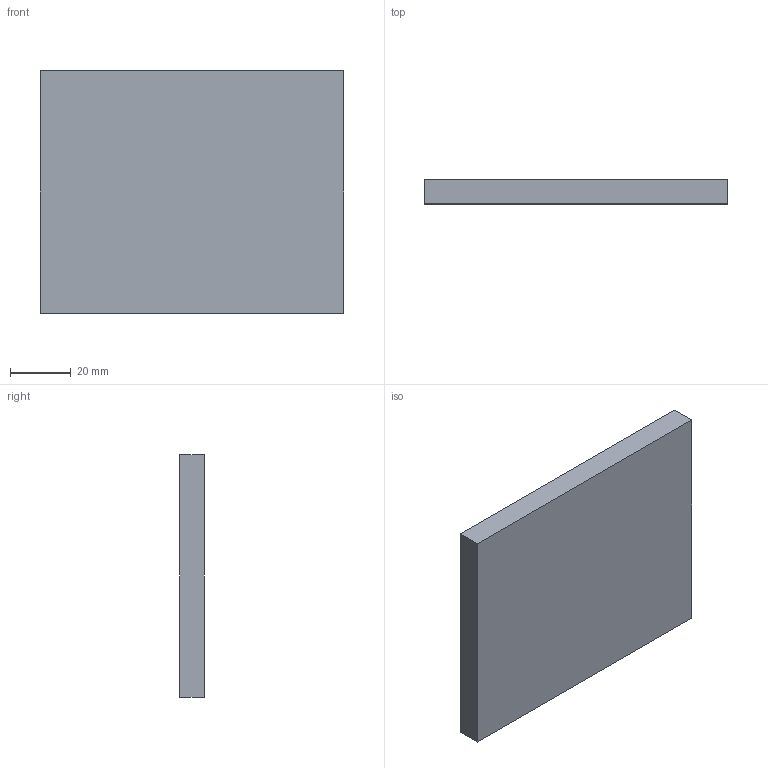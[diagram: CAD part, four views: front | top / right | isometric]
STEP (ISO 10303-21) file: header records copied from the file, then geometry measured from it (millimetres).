
FILE_DESCRIPTION(('Open CASCADE Model'),'2;1');
FILE_NAME('Open CASCADE Shape Model','2026-03-30T20:16:05',('Author'),( 'Open CASCADE'),'Open CASCADE STEP processor 7.8','Open CASCADE 7.8' ,'Unknown');
FILE_SCHEMA(('AUTOMOTIVE_DESIGN { 1 0 10303 214 1 1 1 1 }'));
Length unit declared in the file: millimetre
Products named in the file (1): Open CASCADE STEP translator 7.8 16
Bounding box: 100 x 8 x 80 mm (x, y, z)
Volume: 64000 mm3; surface area: 18880 mm2
Topology: 1 solids, 1 shells, 6 faces, 12 edges, 8 vertices
Faces by surface type: plane 6
Entity records: 322 total; most frequent: CARTESIAN_POINT 51, DIRECTION 50, LINE 36, VECTOR 36, ORIENTED_EDGE 24, PCURVE 24, DEFINITIONAL_REPRESENTATION 24, EDGE_CURVE 12
